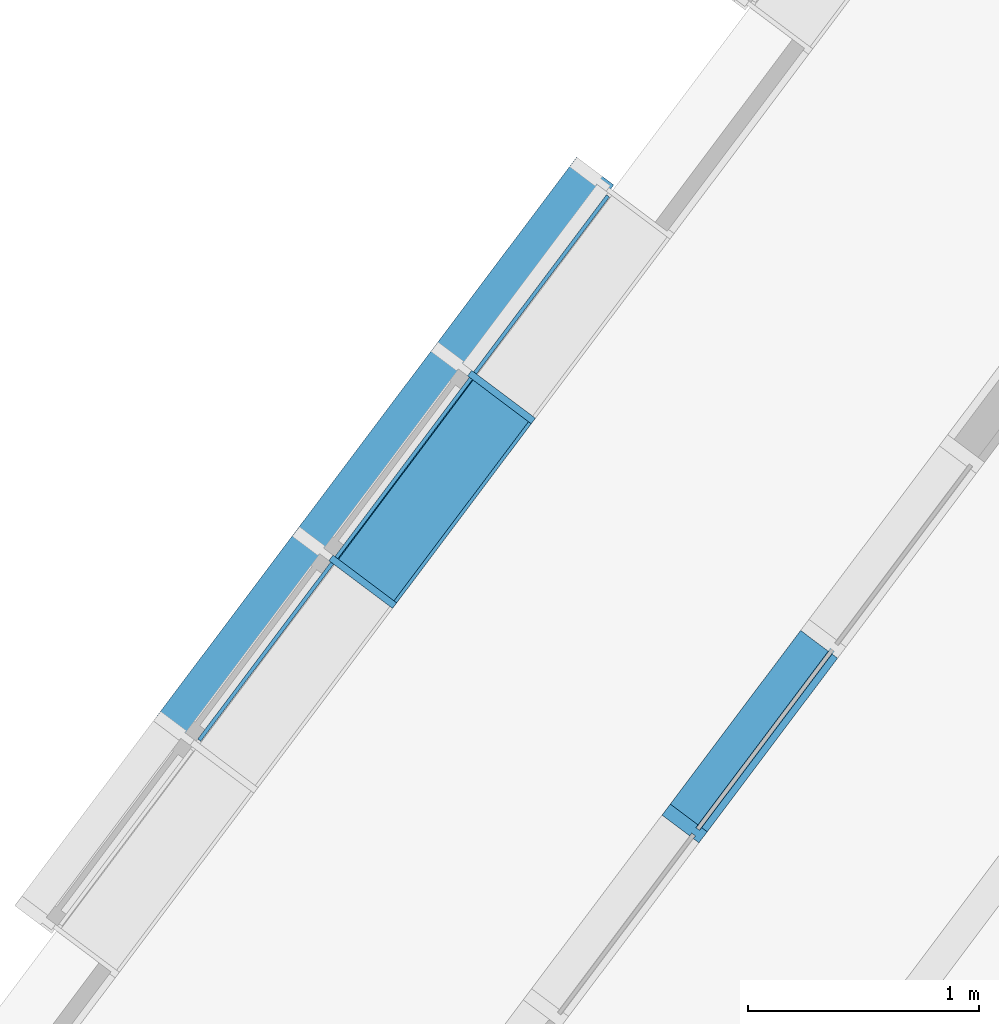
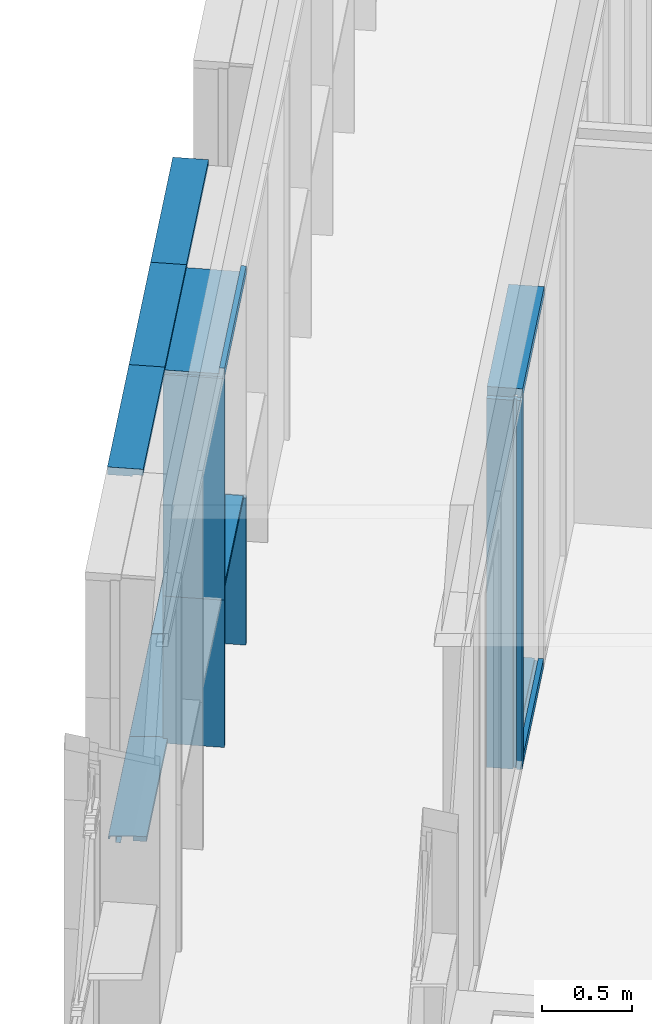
# One storey, part 46 of 243: 14 members, 3 elements without a shape of their own.
"""IFC2X3 building model written with IfcOpenShell, lengths in metres."""

from ifc_helpers import new_model, entity, si_unit, converted_unit, derived_unit, direction, frame, frame_2d, origin, place, context, subcontext, project, spatial, polyline, circle_curve, parameter, trimmed, segment, composite_curve, rectangle, outline, extrude, source, transform, mapped, material, type_object, type_shapes, element, aggregate, save


model = new_model("IFC2X3")

# Units and contexts
model_context = context("Model", 3, precision=1e-05, world=origin(), true_north=direction((6.123031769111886e-17, 1.0)))
body_context = subcontext(model_context, "Body", "Model", "MODEL_VIEW")
ifc_project = project(units=[si_unit("LENGTHUNIT", "METRE"), si_unit("AREAUNIT", "SQUARE_METRE"), si_unit("VOLUMEUNIT", "CUBIC_METRE"), converted_unit("PLANEANGLEUNIT", "DEGREE", entity("IfcRatioMeasure", 0.017453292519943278), si_unit("PLANEANGLEUNIT", "RADIAN"), dimensions=[0, 0, 0, 0, 0, 0, 0]), si_unit("MASSUNIT", "GRAM", prefix="KILO"), derived_unit("MASSDENSITYUNIT", [(si_unit("MASSUNIT", "GRAM", prefix="KILO"), 1), (si_unit("LENGTHUNIT", "METRE"), -3)]), derived_unit("IONCONCENTRATIONUNIT", [(si_unit("MASSUNIT", "GRAM", prefix="KILO"), 1), (si_unit("LENGTHUNIT", "METRE"), -3)]), derived_unit("MOMENTOFINERTIAUNIT", [(si_unit("LENGTHUNIT", "METRE"), 4)]), si_unit("TIMEUNIT", "SECOND"), si_unit("FREQUENCYUNIT", "HERTZ"), si_unit("THERMODYNAMICTEMPERATUREUNIT", "DEGREE_CELSIUS"), derived_unit("THERMALTRANSMITTANCEUNIT", [(si_unit("MASSUNIT", "GRAM", prefix="KILO"), 1), (si_unit("THERMODYNAMICTEMPERATUREUNIT", "KELVIN"), -1), (si_unit("TIMEUNIT", "SECOND"), -3)]), derived_unit("THERMALCONDUCTANCEUNIT", [(si_unit("MASSUNIT", "GRAM", prefix="KILO"), 1), (si_unit("THERMODYNAMICTEMPERATUREUNIT", "KELVIN"), -1), (si_unit("TIMEUNIT", "SECOND"), -3), (si_unit("LENGTHUNIT", "METRE"), 1)]), derived_unit("VOLUMETRICFLOWRATEUNIT", [(si_unit("LENGTHUNIT", "METRE"), 3), (si_unit("TIMEUNIT", "SECOND"), -1)]), derived_unit("MASSFLOWRATEUNIT", [(si_unit("MASSUNIT", "GRAM", prefix="KILO"), 1), (si_unit("TIMEUNIT", "SECOND"), -1)]), derived_unit("ROTATIONALFREQUENCYUNIT", [(si_unit("TIMEUNIT", "SECOND"), -1)]), si_unit("ELECTRICCURRENTUNIT", "AMPERE"), si_unit("ELECTRICVOLTAGEUNIT", "VOLT"), si_unit("POWERUNIT", "WATT"), si_unit("FORCEUNIT", "NEWTON", prefix="KILO"), si_unit("ILLUMINANCEUNIT", "LUX"), si_unit("LUMINOUSFLUXUNIT", "LUMEN"), si_unit("LUMINOUSINTENSITYUNIT", "CANDELA"), derived_unit("USERDEFINED", [(si_unit("MASSUNIT", "GRAM", prefix="KILO"), -1), (si_unit("LENGTHUNIT", "METRE"), -2), (si_unit("TIMEUNIT", "SECOND"), 3), (si_unit("LUMINOUSFLUXUNIT", "LUMEN"), 1)]), derived_unit("USERDEFINED", [(si_unit("MASSUNIT", "GRAM", prefix="KILO"), 1), (si_unit("TIMEUNIT", "SECOND"), -3), (si_unit("LENGTHUNIT", "METRE"), 3), (si_unit("ELECTRICCURRENTUNIT", "AMPERE"), -2)]), derived_unit("SOUNDPOWERUNIT", [(si_unit("MASSUNIT", "GRAM", prefix="KILO"), 1), (si_unit("TIMEUNIT", "SECOND"), -3), (si_unit("LENGTHUNIT", "METRE"), 2)]), derived_unit("SOUNDPRESSUREUNIT", [(si_unit("MASSUNIT", "GRAM", prefix="KILO"), 1), (si_unit("LENGTHUNIT", "METRE"), -1), (si_unit("TIMEUNIT", "SECOND"), -2)]), derived_unit("LINEARVELOCITYUNIT", [(si_unit("LENGTHUNIT", "METRE"), 1), (si_unit("TIMEUNIT", "SECOND"), -1)]), si_unit("PRESSUREUNIT", "PASCAL"), derived_unit("USERDEFINED", [(si_unit("MASSUNIT", "GRAM", prefix="KILO"), 1), (si_unit("LENGTHUNIT", "METRE"), -2), (si_unit("TIMEUNIT", "SECOND"), -2)]), derived_unit("LINEARFORCEUNIT", [(si_unit("MASSUNIT", "GRAM", prefix="KILO"), 1), (si_unit("TIMEUNIT", "SECOND"), -2)]), derived_unit("PLANARFORCEUNIT", [(si_unit("MASSUNIT", "GRAM", prefix="KILO"), 1), (si_unit("LENGTHUNIT", "METRE"), -1), (si_unit("TIMEUNIT", "SECOND"), -2)]), derived_unit("SPECIFICHEATCAPACITYUNIT", [(si_unit("THERMODYNAMICTEMPERATUREUNIT", "KELVIN"), -1), (si_unit("LENGTHUNIT", "METRE"), 2), (si_unit("TIMEUNIT", "SECOND"), -2)]), derived_unit("HEATINGVALUEUNIT", [(si_unit("LENGTHUNIT", "METRE"), 2), (si_unit("TIMEUNIT", "SECOND"), -2)]), derived_unit("VAPORPERMEABILITYUNIT", [(si_unit("LENGTHUNIT", "METRE"), -1), (si_unit("TIMEUNIT", "SECOND"), 1)]), derived_unit("DYNAMICVISCOSITYUNIT", [(si_unit("MASSUNIT", "GRAM", prefix="KILO"), 1), (si_unit("TIMEUNIT", "SECOND"), -1), (si_unit("LENGTHUNIT", "METRE"), -1)]), derived_unit("THERMALEXPANSIONCOEFFICIENTUNIT", [(si_unit("THERMODYNAMICTEMPERATUREUNIT", "KELVIN"), -1)]), derived_unit("MODULUSOFELASTICITYUNIT", [(si_unit("MASSUNIT", "GRAM", prefix="KILO"), 1), (si_unit("LENGTHUNIT", "METRE"), -1), (si_unit("TIMEUNIT", "SECOND"), -2)]), derived_unit("ISOTHERMALMOISTURECAPACITYUNIT", [(si_unit("LENGTHUNIT", "METRE"), 3), (si_unit("MASSUNIT", "GRAM", prefix="KILO"), -1)]), derived_unit("MOISTUREDIFFUSIVITYUNIT", [(si_unit("TIMEUNIT", "SECOND"), -1), (si_unit("LENGTHUNIT", "METRE"), 2)])], contexts=[model_context])

# Site, building, storey
site_placement = place(None, frame((0.0, 0.0, 235.0), z_axis=(0.0, 0.0, 1.0), x_axis=(-0.7996477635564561, 0.6004693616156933, 0.0)))
site = spatial("IfcSite", under=ifc_project, at=site_placement, Name="Default", CompositionType="ELEMENT")
building_placement = place(site_placement, origin())
building = spatial("IfcBuilding", under=site, at=building_placement, CompositionType="ELEMENT")
storey_placement = place(building_placement, origin())
storey = spatial("IfcBuildingStorey", under=building, at=storey_placement, Name="P0- Escola", CompositionType="ELEMENT", Elevation=0.0)

# Curtain wall, members
curtain_wall_type_1 = type_object("IfcCurtainWallType", Name="Muro cortina:MC- INT- a1", PredefinedType="NOTDEFINED")
curtain_wall_1_placement = place(storey_placement, origin())
curtain_wall_1 = element("IfcCurtainWall", 1, at=curtain_wall_1_placement, inside=storey, type_object=curtain_wall_type_1, Name="Muro cortina:MC- INT- a1", ObjectType="Muro cortina:MC- INT- a1")
ifc_material_1 = material(Name="_Fusta massisa- T1")
member_type_1 = type_object("IfcMemberType", Name="Montante rectangular:MC- Fusta- 20x6 cm- Centre", PredefinedType="MULLION", material=ifc_material_1)
shared_shape_1 = source(origin(), body_context, "Body", "SweptSolid", [
    extrude(outline(polyline([(-0.06000000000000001, -0.030000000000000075), (-0.03, -0.030000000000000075), (-0.029999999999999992, -0.015000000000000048), (-0.009999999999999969, -0.01499999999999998), (-0.009999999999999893, -0.030000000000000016), (0.14000000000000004, -0.029999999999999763), (0.13999999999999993, 0.030000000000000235), (-0.010000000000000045, 0.02999999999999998), (-0.01000000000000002, 0.014999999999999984), (-0.030000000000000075, 0.014999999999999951), (-0.03000000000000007, 0.029999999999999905), (-0.059999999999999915, 0.029999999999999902), (-0.06000000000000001, -0.030000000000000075)])), frame((0.0, -0.019999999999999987, -2.505000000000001), z_axis=(0.0, 0.0, 1.0), x_axis=(0.0, -1.0, 0.0)), (0.0, 0.0, 1.0), 2.5050000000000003),
])
type_shapes(member_type_1, [shared_shape_1])
member_1_placement = place(curtain_wall_1_placement, frame((47.320147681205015, -27.415189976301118, 0.0), z_axis=(0.0, 0.0, -1.0), x_axis=(0.0, -1.0, 0.0)))
member_1 = element("IfcMember", 2, at=member_1_placement, type_object=member_type_1, material=ifc_material_1, Name="Montante rectangular:MC- Fusta- 20x6 cm- Centre", ObjectType="Montante rectangular:MC- Fusta- 20x6 cm- Centre", context=body_context, shape_type="MappedRepresentation", body=[
    mapped(shared_shape_1, transform((0.0, 0.0, 0.0), scale=1.0)),
])
member_type_2 = type_object("IfcMemberType", Name="Montante rectangular:MC- Fusta- 20x6 cm- Esquerra", PredefinedType="MULLION", material=ifc_material_1)
shared_shape_2 = source(origin(), body_context, "Body", "SweptSolid", [
    extrude(outline(polyline([(-0.07000000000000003, -0.01875000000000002), (-0.04000000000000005, -0.01875000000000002), (-0.04000000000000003, -0.0037500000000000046), (-0.020000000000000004, -0.0037500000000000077), (-0.02, -0.018750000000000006), (0.13, -0.018749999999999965), (0.12999999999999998, 0.04125000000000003), (-0.06999999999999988, 0.04124999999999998), (-0.07000000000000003, -0.01875000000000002)])), frame((-0.041249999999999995, -0.03, -1.0), z_axis=(0.0, 0.0, 1.0), x_axis=(0.0, -1.0, 0.0)), (0.0, 0.0, 1.0), 0.9999999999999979),
])
type_shapes(member_type_2, [shared_shape_2])
member_2_placement = place(curtain_wall_1_placement, frame((47.32014768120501, -28.415189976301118, 2.565), z_axis=(0.0, -1.0, 0.0), x_axis=(0.0, 0.0, 1.0)))
member_2 = element("IfcMember", 3, at=member_2_placement, type_object=member_type_2, material=ifc_material_1, Name="Montante rectangular:MC- Fusta- 20x6 cm- Esquerra", ObjectType="Montante rectangular:MC- Fusta- 20x6 cm- Esquerra", context=body_context, shape_type="MappedRepresentation", body=[
    mapped(shared_shape_2, transform((0.0, 0.0, 0.0), scale=1.0)),
])
member_type_3 = type_object("IfcMemberType", Name="Montante rectangular:MC- Fusta- 20x6 cm- Inferior", PredefinedType="MULLION", material=ifc_material_1)
shared_shape_3 = source(origin(), body_context, "Body", "SweptSolid", [
    extrude(outline(polyline([(-0.06999999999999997, -0.018750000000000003), (-0.039999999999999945, -0.018750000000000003), (-0.03999999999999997, -0.003750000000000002), (-0.019999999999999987, -0.0037500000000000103), (-0.019999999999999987, -0.018750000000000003), (0.13000000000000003, -0.018750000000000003), (0.13000000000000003, 0.041249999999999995), (-0.07000000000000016, 0.041249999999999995), (-0.06999999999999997, -0.018750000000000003)])), frame((-0.041249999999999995, -0.02999999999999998, -0.9399999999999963), z_axis=(0.0, 0.0, 1.0), x_axis=(0.0, -1.0, 0.0)), (0.0, 0.0, 1.0), 0.9399999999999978),
])
type_shapes(member_type_3, [shared_shape_3])
member_3_placement = place(curtain_wall_1_placement, frame((47.320147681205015, -27.44518997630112, 0.0), z_axis=(0.0, 1.0, 0.0), x_axis=(0.0, 0.0, -1.0)))
member_3 = element("IfcMember", 4, at=member_3_placement, type_object=member_type_3, material=ifc_material_1, Name="Montante rectangular:MC- Fusta- 20x6 cm- Inferior", ObjectType="Montante rectangular:MC- Fusta- 20x6 cm- Inferior", context=body_context, shape_type="MappedRepresentation", body=[
    mapped(shared_shape_3, transform((0.0, 0.0, 0.0), scale=1.0)),
])
aggregate(curtain_wall_1, [member_2, member_1, member_3])

curtain_wall_type_2 = type_object("IfcCurtainWallType", Name="Muro cortina:MC- INT- k2", PredefinedType="NOTDEFINED")
curtain_wall_2_placement = place(storey_placement, origin())
curtain_wall_2 = element("IfcCurtainWall", 5, at=curtain_wall_2_placement, inside=storey, type_object=curtain_wall_type_2, Name="Muro cortina:MC- INT- k2", ObjectType="Muro cortina:MC- INT- k2")
member_type_4 = type_object("IfcMemberType", Name="Montante rectangular:MC- Fusta- 35x3 cm- Centre", PredefinedType="MULLION", material=ifc_material_1)
shared_shape_4 = source(origin(), body_context, "Body", "SweptSolid", [
    extrude(rectangle(XDim=0.3450000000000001, YDim=0.030000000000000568, at=frame_2d((0.0, -1.3964523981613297e-16), x_axis=(1.0, 0.0))), frame((0.0, -0.07750000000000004, -1.0), z_axis=(0.0, 0.0, 1.0), x_axis=(0.0, -1.0, 0.0)), (0.0, 0.0, 1.0), 1.0),
])
type_shapes(member_type_4, [shared_shape_4])
member_4_placement = place(curtain_wall_2_placement, frame((49.04514768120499, -27.415191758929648, 0.0), z_axis=(0.0, 0.0, -1.0), x_axis=(0.0, -1.0, 0.0)))
member_4 = element("IfcMember", 6, at=member_4_placement, type_object=member_type_4, material=ifc_material_1, Name="Montante rectangular:MC- Fusta- 35x3 cm- Centre", ObjectType="Montante rectangular:MC- Fusta- 35x3 cm- Centre", context=body_context, shape_type="MappedRepresentation", body=[
    mapped(shared_shape_4, transform((0.0, 0.0, 0.0), scale=1.0)),
])
member_5_placement = place(curtain_wall_2_placement, frame((49.04514768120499, -28.415191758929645, 0.0), z_axis=(0.0, 0.0, -1.0), x_axis=(0.0, -1.0, 0.0)))
member_5 = element("IfcMember", 7, at=member_5_placement, type_object=member_type_4, material=ifc_material_1, Name="Montante rectangular:MC- Fusta- 35x3 cm- Centre", ObjectType="Montante rectangular:MC- Fusta- 35x3 cm- Centre", context=body_context, shape_type="MappedRepresentation", body=[
    mapped(shared_shape_4, transform((0.0, 0.0, 0.0), scale=1.0)),
])
member_type_5 = type_object("IfcMemberType", Name="Montante rectangular:MC- Fusta- 35x3 cm- Pati aules- Remat superior", PredefinedType="MULLION", material=ifc_material_1)
shared_shape_5 = source(origin(), body_context, "Body", "SweptSolid", [
    extrude(outline(polyline([(-0.12166666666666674, -0.02666666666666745), (0.21333333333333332, -0.02666666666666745), (0.2133333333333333, -0.006666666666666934), (-0.09166666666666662, -0.006666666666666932), (-0.09166666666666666, 0.03333333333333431), (-0.12166666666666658, 0.03333333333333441), (-0.12166666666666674, -0.02666666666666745)])), frame((-0.033333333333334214, -0.026666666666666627, -1.0), z_axis=(0.0, 0.0, 1.0), x_axis=(0.0, -1.0, 0.0)), (0.0, 0.0, 1.0), 0.9999999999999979),
])
type_shapes(member_type_5, [shared_shape_5])
member_6_placement = place(curtain_wall_2_placement, frame((49.04514768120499, -28.415191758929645, 2.565), z_axis=(0.0, -1.0, 0.0), x_axis=(0.0, 0.0, 1.0)))
member_6 = element("IfcMember", 8, at=member_6_placement, type_object=member_type_5, material=ifc_material_1, Name="Montante rectangular:MC- Fusta- 35x3 cm- Pati aules- Remat superior", ObjectType="Montante rectangular:MC- Fusta- 35x3 cm- Pati aules- Remat superior", context=body_context, shape_type="MappedRepresentation", body=[
    mapped(shared_shape_5, transform((0.0, 0.0, 0.0), scale=1.0)),
])
member_type_6 = type_object("IfcMemberType", Name="Montante rectangular:MC- Fusta- 35x3 cm- Pati aules- Prestatge", PredefinedType="MULLION", material=ifc_material_1)
shared_shape_6 = source(origin(), body_context, "Body", "SweptSolid", [
    extrude(rectangle(XDim=0.30000000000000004, YDim=0.03000000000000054, at=frame_2d((0.0, -1.231653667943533e-16), x_axis=(1.0, 0.0))), frame((0.0, -0.07000000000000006, -0.9699999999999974), z_axis=(0.0, 0.0, 1.0), x_axis=(0.0, -1.0, 0.0)), (0.0, 0.0, 1.0), 0.969999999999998),
])
type_shapes(member_type_6, [shared_shape_6])
member_7_placement = place(curtain_wall_2_placement, frame((49.04514768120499, -28.400191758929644, 1.0), z_axis=(0.0, -1.0, 0.0), x_axis=(0.0, 0.0, 1.0)))
member_7 = element("IfcMember", 9, at=member_7_placement, type_object=member_type_6, material=ifc_material_1, Name="Montante rectangular:MC- Fusta- 35x3 cm- Pati aules- Prestatge", ObjectType="Montante rectangular:MC- Fusta- 35x3 cm- Pati aules- Prestatge", context=body_context, shape_type="MappedRepresentation", body=[
    mapped(shared_shape_6, transform((0.0, 0.0, 0.0), scale=1.0)),
])
member_type_7 = type_object("IfcMemberType", Name="Montante rectangular:MC- Fusta- 35x3 cm- Centre", PredefinedType="MULLION", material=ifc_material_1)
shared_shape_7 = source(origin(), body_context, "Body", "SweptSolid", [
    extrude(rectangle(XDim=0.3450000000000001, YDim=0.030000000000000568, at=frame_2d((0.0, -1.3964523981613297e-16), x_axis=(1.0, 0.0))), frame((0.0, -0.07750000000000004, -1.504999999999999), z_axis=(0.0, 0.0, 1.0), x_axis=(0.0, -1.0, 0.0)), (0.0, 0.0, 1.0), 1.504999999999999),
])
type_shapes(member_type_7, [shared_shape_7])
member_8_placement = place(curtain_wall_2_placement, frame((49.04514768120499, -27.415191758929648, 1.0), z_axis=(0.0, 0.0, -1.0), x_axis=(0.0, -1.0, 0.0)))
member_8 = element("IfcMember", 10, at=member_8_placement, type_object=member_type_7, material=ifc_material_1, Name="Montante rectangular:MC- Fusta- 35x3 cm- Centre", ObjectType="Montante rectangular:MC- Fusta- 35x3 cm- Centre", context=body_context, shape_type="MappedRepresentation", body=[
    mapped(shared_shape_7, transform((0.0, 0.0, 0.0), scale=1.0)),
])
aggregate(curtain_wall_2, [member_4, member_6, member_5, member_7, member_8])

curtain_wall_type_3 = type_object("IfcCurtainWallType", Name="Muro cortina:MC- EXT- MC5", PredefinedType="NOTDEFINED")
curtain_wall_3_placement = place(storey_placement, origin())
curtain_wall_3 = element("IfcCurtainWall", 11, at=curtain_wall_3_placement, inside=storey, type_object=curtain_wall_type_3, Name="Muro cortina:MC- EXT- MC5", ObjectType="Muro cortina:MC- EXT- MC5")
ifc_material_2 = material(Name="_Alumini- T1- Perfil")
member_type_8 = type_object("IfcMemberType", Name="Montante rectangular:MC- Alu- 140x52,5 cm- Fa patis- inferior", PredefinedType="MULLION", material=ifc_material_2)
shared_shape_8 = source(origin(), body_context, "Body", "SweptSolid", [
    extrude(outline(composite_curve([segment(polyline([(-0.144167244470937, -0.025867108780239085), (-0.12786724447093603, -0.02586710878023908)]), True, "CONTINUOUS"), segment(polyline([(-0.12786724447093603, -0.02586710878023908), (-0.12786724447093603, -0.023167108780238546)]), True, "CONTINUOUS"), segment(polyline([(-0.12786724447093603, -0.023167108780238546), (-0.0678672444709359, -0.023167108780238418)]), True, "CONTINUOUS"), segment(polyline([(-0.0678672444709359, -0.023167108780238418), (0.07031215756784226, -0.010722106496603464)]), True, "CONTINUOUS"), segment(trimmed(circle_curve(frame_2d((0.07013275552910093, -0.008730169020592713), x_axis=(0.0897010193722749, -0.9959687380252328)), 0.0019999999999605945), [parameter(0.0)], [parameter(84.8535928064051)], True, "PARAMETER"), True, "CONTINUOUS"), segment(polyline([(0.07213275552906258, -0.008730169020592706), (0.07213275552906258, 0.006266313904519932)]), True, "CONTINUOUS"), segment(trimmed(circle_curve(frame_2d((0.07013275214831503, 0.006266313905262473), x_axis=(1.0, 0.0)), 0.0020000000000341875), [parameter(0.0)], [parameter(90.00000002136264)], True, "PARAMETER"), True, "CONTINUOUS"), segment(polyline([(0.070132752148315, 0.008266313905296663), (0.06213275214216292, 0.008266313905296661)]), True, "CONTINUOUS"), segment(polyline([(0.06213275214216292, 0.008266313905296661), (0.06213275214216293, 0.006266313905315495)]), True, "CONTINUOUS"), segment(polyline([(0.06213275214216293, 0.006266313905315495), (0.06963275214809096, 0.006266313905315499)]), True, "CONTINUOUS"), segment(trimmed(circle_curve(frame_2d((0.06963275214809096, 0.005766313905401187), x_axis=(0.0, 1.0)), 0.0004999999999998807), [parameter(269.9999999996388)], [parameter(0.0)], True, "PARAMETER"), False, "CONTINUOUS"), segment(polyline([(0.07013275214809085, 0.005766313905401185), (0.07013275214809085, -0.008730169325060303)]), True, "CONTINUOUS"), segment(polyline([(0.07013275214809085, -0.008730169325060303), (0.03213275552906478, -0.012152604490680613)]), True, "CONTINUOUS"), segment(polyline([(0.03213275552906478, -0.0121526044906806), (0.03213275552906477, 0.029132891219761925)]), True, "CONTINUOUS"), segment(polyline([(0.03213275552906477, 0.029132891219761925), (0.0021327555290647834, 0.029132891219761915)]), True, "CONTINUOUS"), segment(polyline([(0.0021327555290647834, 0.029132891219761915), (0.0021327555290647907, 0.02713289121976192)]), True, "CONTINUOUS"), segment(polyline([(0.0021327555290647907, 0.02713289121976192), (0.03013275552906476, 0.02713289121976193)]), True, "CONTINUOUS"), segment(polyline([(0.03013275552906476, 0.027132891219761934), (0.03013275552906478, -0.012332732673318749)]), True, "CONTINUOUS"), segment(polyline([(0.03013275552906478, -0.012332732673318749), (-0.06786724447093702, -0.021159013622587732)]), True, "CONTINUOUS"), segment(polyline([(-0.06786724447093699, -0.02115901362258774), (-0.067867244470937, 0.009132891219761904)]), True, "CONTINUOUS"), segment(polyline([(-0.06786724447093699, 0.009132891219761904), (-0.14416724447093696, 0.009132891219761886)]), True, "CONTINUOUS"), segment(polyline([(-0.14416724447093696, 0.009132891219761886), (-0.144167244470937, -0.025867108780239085)]), True, "CONTINUOUS")], self_intersect=False)), frame((-0.029132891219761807, -0.06786724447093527, -0.9737499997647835), z_axis=(0.0, 0.0, 1.0), x_axis=(0.0, -1.0, 0.0)), (0.0, 0.0, 1.0), 0.9737499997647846),
])
type_shapes(member_type_8, [shared_shape_8])
member_9_placement = place(curtain_wall_3_placement, frame((49.345147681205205, -26.441441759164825, -0.02), z_axis=(0.0, 1.0, 0.0), x_axis=(0.0, 0.0, -1.0)))
member_9 = element("IfcMember", 12, at=member_9_placement, type_object=member_type_8, material=ifc_material_2, Name="Montante rectangular:MC- Alu- 140x52,5 cm- Fa patis- inferior", ObjectType="Montante rectangular:MC- Alu- 140x52,5 cm- Fa patis- inferior", context=body_context, shape_type="MappedRepresentation", body=[
    mapped(shared_shape_8, transform((0.0, 0.0, 0.0), scale=1.0)),
])
member_type_9 = type_object("IfcMemberType", Name="Montante rectangular:MC- Alu- 140x52,5 cm- Fa patis- Superior", PredefinedType="MULLION", material=ifc_material_2)
shared_shape_9 = source(origin(), body_context, "Body", "SweptSolid", [
    extrude(outline(polyline([(-0.026333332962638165, -0.021249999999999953), (0.11366666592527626, -0.021249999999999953), (0.11366666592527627, 0.031250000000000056), (-0.08733333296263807, 0.03125000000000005), (-0.0873333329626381, -0.010000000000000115), (-0.026333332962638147, -0.010000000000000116), (-0.026333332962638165, -0.021249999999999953)])), frame((-0.031250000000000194, -0.02733333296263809, -1.0), z_axis=(0.0, 0.0, 1.0), x_axis=(0.0, -1.0, 0.0)), (0.0, 0.0, 1.0), 1.0000000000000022),
])
type_shapes(member_type_9, [shared_shape_9])
member_10_placement = place(curtain_wall_3_placement, frame((49.345147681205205, -27.41519175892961, 2.545), z_axis=(0.0, -1.0, 0.0), x_axis=(0.0, 0.0, 1.0)))
member_10 = element("IfcMember", 13, at=member_10_placement, type_object=member_type_9, material=ifc_material_2, Name="Montante rectangular:MC- Alu- 140x52,5 cm- Fa patis- Superior", ObjectType="Montante rectangular:MC- Alu- 140x52,5 cm- Fa patis- Superior", context=body_context, shape_type="MappedRepresentation", body=[
    mapped(shared_shape_9, transform((0.0, 0.0, 0.0), scale=1.0)),
])
member_11_placement = place(curtain_wall_3_placement, frame((49.34514768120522, -28.415191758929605, 2.545), z_axis=(0.0, -1.0, 0.0), x_axis=(0.0, 0.0, 1.0)))
member_11 = element("IfcMember", 14, at=member_11_placement, type_object=member_type_9, material=ifc_material_2, Name="Montante rectangular:MC- Alu- 140x52,5 cm- Fa patis- Superior", ObjectType="Montante rectangular:MC- Alu- 140x52,5 cm- Fa patis- Superior", context=body_context, shape_type="MappedRepresentation", body=[
    mapped(shared_shape_9, transform((0.0, 0.0, 0.0), scale=1.0)),
])
member_type_10 = type_object("IfcMemberType", Name="Montante rectangular:MC- Alu- 140x52,5 cm- Fa patis- inferior", PredefinedType="MULLION", material=ifc_material_2)
shared_shape_10 = source(origin(), body_context, "Body", "SweptSolid", [
    extrude(outline(composite_curve([segment(polyline([(-0.144167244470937, -0.02586710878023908), (-0.12786724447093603, -0.025867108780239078)]), True, "CONTINUOUS"), segment(polyline([(-0.12786724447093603, -0.025867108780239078), (-0.12786724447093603, -0.023167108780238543)]), True, "CONTINUOUS"), segment(polyline([(-0.12786724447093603, -0.023167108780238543), (-0.0678672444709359, -0.023167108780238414)]), True, "CONTINUOUS"), segment(polyline([(-0.0678672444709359, -0.023167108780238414), (0.07031215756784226, -0.01072210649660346)]), True, "CONTINUOUS"), segment(trimmed(circle_curve(frame_2d((0.07013275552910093, -0.00873016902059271), x_axis=(0.0897010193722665, -0.9959687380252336)), 0.0019999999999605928), [parameter(0.0)], [parameter(84.85359280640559)], True, "PARAMETER"), True, "CONTINUOUS"), segment(polyline([(0.07213275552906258, -0.008730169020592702), (0.07213275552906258, 0.006266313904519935)]), True, "CONTINUOUS"), segment(trimmed(circle_curve(frame_2d((0.070132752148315, 0.0062663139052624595), x_axis=(1.0, 0.0)), 0.0020000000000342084), [parameter(0.0)], [parameter(90.00000002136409)], True, "PARAMETER"), True, "CONTINUOUS"), segment(polyline([(0.070132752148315, 0.008266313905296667), (0.06213275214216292, 0.008266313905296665)]), True, "CONTINUOUS"), segment(polyline([(0.06213275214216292, 0.008266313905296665), (0.06213275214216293, 0.006266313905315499)]), True, "CONTINUOUS"), segment(polyline([(0.06213275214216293, 0.006266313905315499), (0.06963275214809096, 0.006266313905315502)]), True, "CONTINUOUS"), segment(trimmed(circle_curve(frame_2d((0.06963275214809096, 0.005766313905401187), x_axis=(0.0, 1.0)), 0.000499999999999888), [parameter(269.9999999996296)], [parameter(0.0)], True, "PARAMETER"), False, "CONTINUOUS"), segment(polyline([(0.07013275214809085, 0.005766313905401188), (0.07013275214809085, -0.0087301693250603)]), True, "CONTINUOUS"), segment(polyline([(0.07013275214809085, -0.0087301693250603), (0.03213275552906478, -0.01215260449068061)]), True, "CONTINUOUS"), segment(polyline([(0.03213275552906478, -0.012152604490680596), (0.03213275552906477, 0.02913289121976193)]), True, "CONTINUOUS"), segment(polyline([(0.03213275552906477, 0.02913289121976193), (0.0021327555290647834, 0.029132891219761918)]), True, "CONTINUOUS"), segment(polyline([(0.0021327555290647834, 0.029132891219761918), (0.0021327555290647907, 0.027132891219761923)]), True, "CONTINUOUS"), segment(polyline([(0.0021327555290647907, 0.027132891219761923), (0.03013275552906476, 0.027132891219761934)]), True, "CONTINUOUS"), segment(polyline([(0.03013275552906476, 0.027132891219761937), (0.03013275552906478, -0.012332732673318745)]), True, "CONTINUOUS"), segment(polyline([(0.03013275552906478, -0.012332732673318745), (-0.06786724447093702, -0.02115901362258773)]), True, "CONTINUOUS"), segment(polyline([(-0.06786724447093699, -0.021159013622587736), (-0.067867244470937, 0.009132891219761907)]), True, "CONTINUOUS"), segment(polyline([(-0.06786724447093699, 0.009132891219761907), (-0.14416724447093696, 0.00913289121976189)]), True, "CONTINUOUS"), segment(polyline([(-0.14416724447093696, 0.00913289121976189), (-0.144167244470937, -0.02586710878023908)]), True, "CONTINUOUS")], self_intersect=False)), frame((-0.02913289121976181, -0.06786724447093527, -1.0), z_axis=(0.0, 0.0, 1.0), x_axis=(0.0, -1.0, 0.0)), (0.0, 0.0, 1.0), 0.9999999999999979),
])
type_shapes(member_type_10, [shared_shape_10])
member_12_placement = place(curtain_wall_3_placement, frame((49.345147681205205, -27.41519175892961, -0.02), z_axis=(0.0, 1.0, 0.0), x_axis=(0.0, 0.0, -1.0)))
member_12 = element("IfcMember", 15, at=member_12_placement, type_object=member_type_10, material=ifc_material_2, Name="Montante rectangular:MC- Alu- 140x52,5 cm- Fa patis- inferior", ObjectType="Montante rectangular:MC- Alu- 140x52,5 cm- Fa patis- inferior", context=body_context, shape_type="MappedRepresentation", body=[
    mapped(shared_shape_10, transform((0.0, 0.0, 0.0), scale=1.0)),
])
member_type_11 = type_object("IfcMemberType", Name="Montante rectangular:MC- Alu- 140x52,5 cm- Fa patis- inferior", PredefinedType="MULLION", material=ifc_material_2)
shared_shape_11 = source(origin(), body_context, "Body", "SweptSolid", [
    extrude(outline(composite_curve([segment(polyline([(-0.144167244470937, -0.025867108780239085), (-0.12786724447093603, -0.02586710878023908)]), True, "CONTINUOUS"), segment(polyline([(-0.12786724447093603, -0.02586710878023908), (-0.12786724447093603, -0.023167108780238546)]), True, "CONTINUOUS"), segment(polyline([(-0.12786724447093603, -0.023167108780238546), (-0.0678672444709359, -0.023167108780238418)]), True, "CONTINUOUS"), segment(polyline([(-0.0678672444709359, -0.023167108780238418), (0.07031215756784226, -0.010722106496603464)]), True, "CONTINUOUS"), segment(trimmed(circle_curve(frame_2d((0.07013275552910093, -0.008730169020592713), x_axis=(0.0897010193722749, -0.9959687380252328)), 0.0019999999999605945), [parameter(0.0)], [parameter(84.8535928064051)], True, "PARAMETER"), True, "CONTINUOUS"), segment(polyline([(0.07213275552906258, -0.008730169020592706), (0.07213275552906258, 0.006266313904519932)]), True, "CONTINUOUS"), segment(trimmed(circle_curve(frame_2d((0.07013275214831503, 0.006266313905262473), x_axis=(1.0, 0.0)), 0.0020000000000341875), [parameter(0.0)], [parameter(90.00000002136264)], True, "PARAMETER"), True, "CONTINUOUS"), segment(polyline([(0.070132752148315, 0.008266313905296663), (0.06213275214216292, 0.008266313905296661)]), True, "CONTINUOUS"), segment(polyline([(0.06213275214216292, 0.008266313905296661), (0.06213275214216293, 0.006266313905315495)]), True, "CONTINUOUS"), segment(polyline([(0.06213275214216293, 0.006266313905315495), (0.06963275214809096, 0.006266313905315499)]), True, "CONTINUOUS"), segment(trimmed(circle_curve(frame_2d((0.06963275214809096, 0.005766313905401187), x_axis=(0.0, 1.0)), 0.0004999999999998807), [parameter(269.9999999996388)], [parameter(0.0)], True, "PARAMETER"), False, "CONTINUOUS"), segment(polyline([(0.07013275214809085, 0.005766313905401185), (0.07013275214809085, -0.008730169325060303)]), True, "CONTINUOUS"), segment(polyline([(0.07013275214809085, -0.008730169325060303), (0.03213275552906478, -0.012152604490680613)]), True, "CONTINUOUS"), segment(polyline([(0.03213275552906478, -0.0121526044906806), (0.03213275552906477, 0.029132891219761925)]), True, "CONTINUOUS"), segment(polyline([(0.03213275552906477, 0.029132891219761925), (0.0021327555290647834, 0.029132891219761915)]), True, "CONTINUOUS"), segment(polyline([(0.0021327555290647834, 0.029132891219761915), (0.0021327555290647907, 0.02713289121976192)]), True, "CONTINUOUS"), segment(polyline([(0.0021327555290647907, 0.02713289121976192), (0.03013275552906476, 0.02713289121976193)]), True, "CONTINUOUS"), segment(polyline([(0.03013275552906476, 0.027132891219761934), (0.03013275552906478, -0.012332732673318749)]), True, "CONTINUOUS"), segment(polyline([(0.03013275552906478, -0.012332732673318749), (-0.06786724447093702, -0.021159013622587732)]), True, "CONTINUOUS"), segment(polyline([(-0.06786724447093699, -0.02115901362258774), (-0.067867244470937, 0.009132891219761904)]), True, "CONTINUOUS"), segment(polyline([(-0.06786724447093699, 0.009132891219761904), (-0.14416724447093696, 0.009132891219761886)]), True, "CONTINUOUS"), segment(polyline([(-0.14416724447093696, 0.009132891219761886), (-0.144167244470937, -0.025867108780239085)]), True, "CONTINUOUS")], self_intersect=False)), frame((-0.029132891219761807, -0.06786724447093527, -0.9737499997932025), z_axis=(0.0, 0.0, 1.0), x_axis=(0.0, -1.0, 0.0)), (0.0, 0.0, 1.0), 0.9737499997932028),
])
type_shapes(member_type_11, [shared_shape_11])
member_13_placement = place(curtain_wall_3_placement, frame((49.34514768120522, -28.415191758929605, -0.02), z_axis=(0.0, 1.0, 0.0), x_axis=(0.0, 0.0, -1.0)))
member_13 = element("IfcMember", 16, at=member_13_placement, type_object=member_type_11, material=ifc_material_2, Name="Montante rectangular:MC- Alu- 140x52,5 cm- Fa patis- inferior", ObjectType="Montante rectangular:MC- Alu- 140x52,5 cm- Fa patis- inferior", context=body_context, shape_type="MappedRepresentation", body=[
    mapped(shared_shape_11, transform((0.0, 0.0, 0.0), scale=1.0)),
])
member_type_12 = type_object("IfcMemberType", Name="Montante rectangular:MC- Alu- 140x52,5 cm- Fa patis- Superior", PredefinedType="MULLION", material=ifc_material_2)
shared_shape_12 = source(origin(), body_context, "Body", "SweptSolid", [
    extrude(outline(polyline([(-0.026333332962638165, -0.021249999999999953), (0.11366666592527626, -0.021249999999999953), (0.11366666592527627, 0.031250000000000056), (-0.08733333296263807, 0.03125000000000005), (-0.0873333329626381, -0.010000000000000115), (-0.026333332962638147, -0.010000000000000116), (-0.026333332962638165, -0.021249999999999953)])), frame((-0.031250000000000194, -0.02733333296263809, -1.0262500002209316), z_axis=(0.0, 0.0, 1.0), x_axis=(0.0, -1.0, 0.0)), (0.0, 0.0, 1.0), 1.0262500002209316),
])
type_shapes(member_type_12, [shared_shape_12])
member_14_placement = place(curtain_wall_3_placement, frame((49.34514768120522, -29.441441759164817, 2.545), z_axis=(0.0, -1.0, 0.0), x_axis=(0.0, 0.0, 1.0)))
member_14 = element("IfcMember", 17, at=member_14_placement, type_object=member_type_12, material=ifc_material_2, Name="Montante rectangular:MC- Alu- 140x52,5 cm- Fa patis- Superior", ObjectType="Montante rectangular:MC- Alu- 140x52,5 cm- Fa patis- Superior", context=body_context, shape_type="MappedRepresentation", body=[
    mapped(shared_shape_12, transform((0.0, 0.0, 0.0), scale=1.0)),
])
aggregate(curtain_wall_3, [member_9, member_10, member_12, member_11, member_13, member_14])

save(model, "model.ifc")
